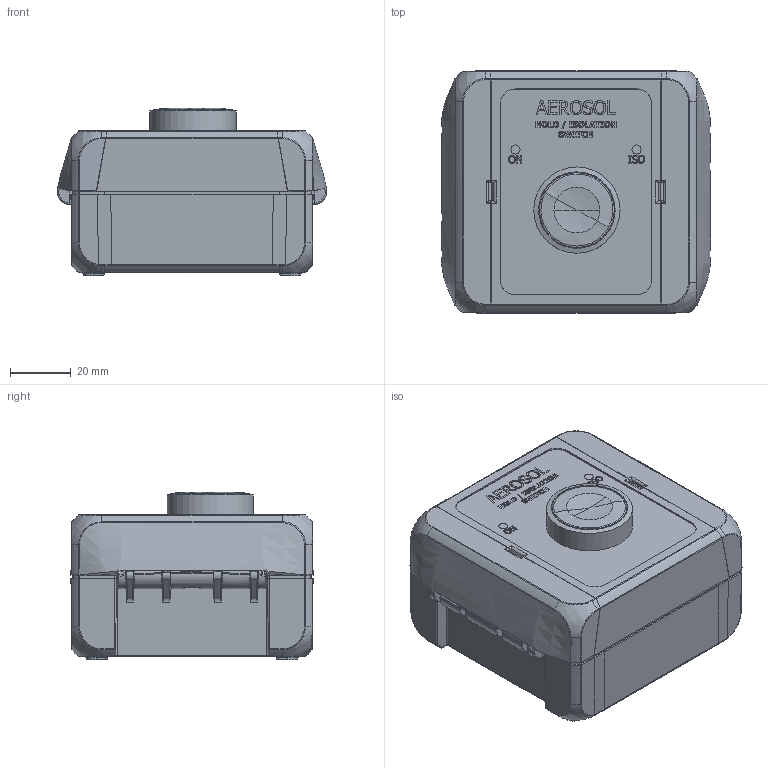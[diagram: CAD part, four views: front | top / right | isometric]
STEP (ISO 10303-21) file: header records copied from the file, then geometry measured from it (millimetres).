
FILE_DESCRIPTION(/* description */ ('Aerosol Isolation switch'),/* implementation_level */ '2;1');
FILE_NAME(/* name */ '2878010012604.stp',/* time_stamp */ '2026-06-15T23:23:24+02:00',/* author */ ('tokti'),/* organization */ (''),/* preprocessor_version */ 'ST-DEVELOPER v20.1',/* originating_system */ 'Autodesk Inventor 2026',/* authorisation */ '');
FILE_SCHEMA (('AUTOMOTIVE_DESIGN { 1 0 10303 214 3 1 1 }'));
Products named in the file (4): 2878010012604; 287898010012278; 287898990012605; XB5AA21
Assembly tree (3 placements, depth 2):
  2878010012604
    287898010012278
    287898990012605
    XB5AA21
Bounding box: 89 x 80 x 55.48 mm (x, y, z)
Volume: 129918.2 mm3; surface area: 100833.9 mm2
Topology: 13 solids, 13 shells, 3323 faces, 8813 edges, 5560 vertices
Faces by surface type: plane 1525, cylinder 867, bspline 733, cone 82, torus 59, sphere 57
Full cylindrical faces by diameter (mm): 2.4 x2, 2.5 x2, 2.7 x2, 3 x2, 3.5 x2, 4 x4, 4.25 x4, 6 x4, 21 x2, 21.75 x1, 22.395 x1, 24.7 x1, 25.1 x1, 28.5 x1, 29 x1
Entity records: 179474 total; most frequent: CARTESIAN_POINT 96906, ORIENTED_EDGE 17542, DIRECTION 15537, EDGE_CURVE 8771, VERTEX_POINT 5560, AXIS2_PLACEMENT_3D 5280, LINE 4977, VECTOR 4977
